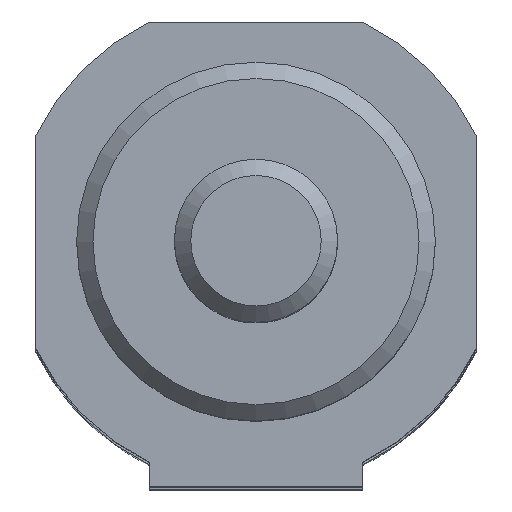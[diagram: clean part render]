
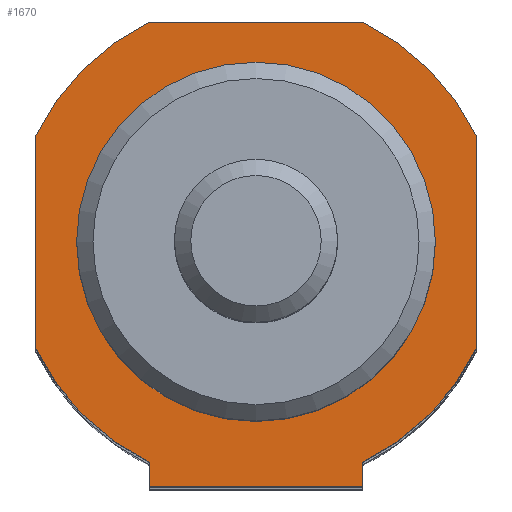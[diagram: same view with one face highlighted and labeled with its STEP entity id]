
A CAD part, top view. The second image highlights one B-rep face of the part: STEP entity #1670.
In plain terms, the highlighted planar face has unit normal (0, 0, 1).
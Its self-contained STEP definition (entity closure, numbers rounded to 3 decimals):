
#101=CARTESIAN_POINT('',(6.538,-15.,136.0));
#102=VERTEX_POINT('',#101);
#103=CARTESIAN_POINT('',(-6.538,-15.,136.0));
#104=VERTEX_POINT('',#103);
#105=CARTESIAN_POINT('',(6.538,-15.,136.0));
#106=DIRECTION('',(-1.0,0.0,0.0));
#107=VECTOR('',#106,13.077);
#108=LINE('',#105,#107);
#109=EDGE_CURVE('',#102,#104,#108,.T.);
#257=CARTESIAN_POINT('',(-6.538,-13.5,136.0));
#258=VERTEX_POINT('',#257);
#272=CARTESIAN_POINT('',(-6.538,-13.5,136.0));
#273=DIRECTION('',(0.0,-1.0,0.0));
#274=VECTOR('',#273,1.5);
#275=LINE('',#272,#274);
#276=EDGE_CURVE('',#258,#104,#275,.T.);
#288=CARTESIAN_POINT('',(6.538,-13.5,136.0));
#289=VERTEX_POINT('',#288);
#296=CARTESIAN_POINT('',(6.538,-13.5,136.0));
#297=DIRECTION('',(0.0,-1.0,0.0));
#298=VECTOR('',#297,1.5);
#299=LINE('',#296,#298);
#300=EDGE_CURVE('',#289,#102,#299,.T.);
#1398=CARTESIAN_POINT('',(11.0,0.,136.0));
#1399=VERTEX_POINT('',#1398);
#1400=CARTESIAN_POINT('',(0.0,0.0,136.0));
#1401=DIRECTION('',(0.0,0.0,-1.0));
#1402=DIRECTION('',(-1.0,0.0,0.0));
#1403=AXIS2_PLACEMENT_3D('',#1400,#1401,#1402);
#1404=CIRCLE('',#1403,11.0);
#1405=EDGE_CURVE('',#1399,#1399,#1404,.T.);
#1490=CARTESIAN_POINT('',(-6.538,13.5,136.0));
#1491=VERTEX_POINT('',#1490);
#1492=CARTESIAN_POINT('',(6.538,13.5,136.0));
#1493=VERTEX_POINT('',#1492);
#1494=CARTESIAN_POINT('',(-6.538,13.5,136.0));
#1495=DIRECTION('',(1.0,0.0,0.0));
#1496=VECTOR('',#1495,13.077);
#1497=LINE('',#1494,#1496);
#1498=EDGE_CURVE('',#1491,#1493,#1497,.T.);
#1521=CARTESIAN_POINT('',(13.5,6.538,136.0));
#1522=VERTEX_POINT('',#1521);
#1523=CARTESIAN_POINT('',(0.,0.,136.0));
#1524=DIRECTION('',(0.,0.,-1.0));
#1525=DIRECTION('',(0.9,0.436,0.));
#1526=AXIS2_PLACEMENT_3D('',#1523,#1524,#1525);
#1527=CIRCLE('',#1526,15.);
#1528=EDGE_CURVE('',#1493,#1522,#1527,.T.);
#1546=CARTESIAN_POINT('',(13.5,-6.538,136.0));
#1547=VERTEX_POINT('',#1546);
#1548=CARTESIAN_POINT('',(13.5,6.538,136.0));
#1549=DIRECTION('',(0.0,-1.0,0.0));
#1550=VECTOR('',#1549,13.077);
#1551=LINE('',#1548,#1550);
#1552=EDGE_CURVE('',#1522,#1547,#1551,.T.);
#1570=CARTESIAN_POINT('',(0.,0.,136.0));
#1571=DIRECTION('',(0.,0.,-1.0));
#1572=DIRECTION('',(0.436,-0.9,0.));
#1573=AXIS2_PLACEMENT_3D('',#1570,#1571,#1572);
#1574=CIRCLE('',#1573,15.);
#1575=EDGE_CURVE('',#1547,#289,#1574,.T.);
#1588=CARTESIAN_POINT('',(-13.5,-6.538,136.0));
#1589=VERTEX_POINT('',#1588);
#1590=CARTESIAN_POINT('',(0.,0.,136.0));
#1591=DIRECTION('',(0.,0.,-1.0));
#1592=DIRECTION('',(-0.9,-0.436,0.));
#1593=AXIS2_PLACEMENT_3D('',#1590,#1591,#1592);
#1594=CIRCLE('',#1593,15.);
#1595=EDGE_CURVE('',#258,#1589,#1594,.T.);
#1613=CARTESIAN_POINT('',(-13.5,6.538,136.0));
#1614=VERTEX_POINT('',#1613);
#1615=CARTESIAN_POINT('',(-13.5,-6.538,136.0));
#1616=DIRECTION('',(0.0,1.0,0.0));
#1617=VECTOR('',#1616,13.077);
#1618=LINE('',#1615,#1617);
#1619=EDGE_CURVE('',#1589,#1614,#1618,.T.);
#1637=CARTESIAN_POINT('',(0.,0.,136.0));
#1638=DIRECTION('',(0.,0.,-1.0));
#1639=DIRECTION('',(-0.436,0.9,0.));
#1640=AXIS2_PLACEMENT_3D('',#1637,#1638,#1639);
#1641=CIRCLE('',#1640,15.);
#1642=EDGE_CURVE('',#1614,#1491,#1641,.T.);
#1650=CARTESIAN_POINT('',(0.,0.0,136.0));
#1651=DIRECTION('',(0.0,0.0,1.0));
#1652=DIRECTION('',(1.0,0.0,0.0));
#1653=AXIS2_PLACEMENT_3D('',#1650,#1651,#1652);
#1654=PLANE('',#1653);
#1655=ORIENTED_EDGE('',*,*,#1498,.F.);
#1656=ORIENTED_EDGE('',*,*,#1642,.F.);
#1657=ORIENTED_EDGE('',*,*,#1619,.F.);
#1658=ORIENTED_EDGE('',*,*,#1595,.F.);
#1659=ORIENTED_EDGE('',*,*,#276,.T.);
#1660=ORIENTED_EDGE('',*,*,#109,.F.);
#1661=ORIENTED_EDGE('',*,*,#300,.F.);
#1662=ORIENTED_EDGE('',*,*,#1575,.F.);
#1663=ORIENTED_EDGE('',*,*,#1552,.F.);
#1664=ORIENTED_EDGE('',*,*,#1528,.F.);
#1665=EDGE_LOOP('',(#1655,#1656,#1657,#1658,#1659,#1660,#1661,#1662,#1663,#1664));
#1666=FACE_OUTER_BOUND('',#1665,.T.);
#1667=ORIENTED_EDGE('',*,*,#1405,.T.);
#1668=EDGE_LOOP('',(#1667));
#1669=FACE_BOUND('',#1668,.T.);
#1670=ADVANCED_FACE('',(#1666,#1669),#1654,.T.);
